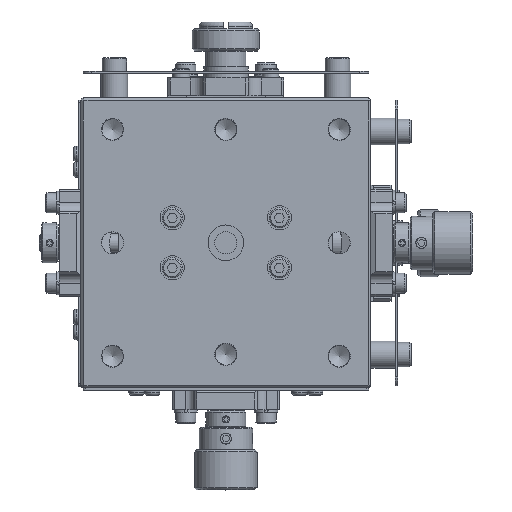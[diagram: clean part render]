
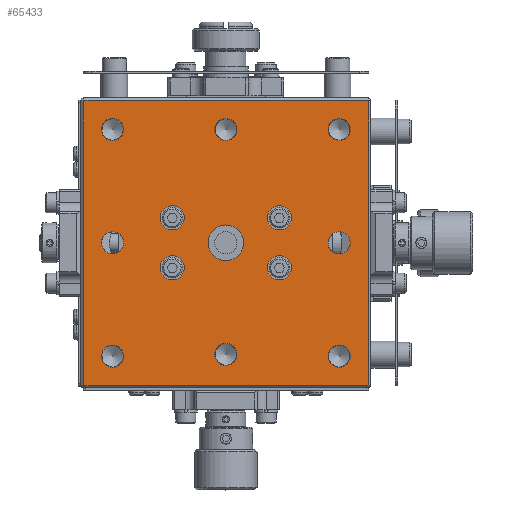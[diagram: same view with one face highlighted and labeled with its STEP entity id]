
A CAD part, top view. The second image highlights one B-rep face of the part: STEP entity #65433.
In plain terms, the highlighted planar face has unit normal (0, 0, 1).
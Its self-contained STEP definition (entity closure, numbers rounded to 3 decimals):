
#64885=CARTESIAN_POINT('',(-32.0,31.793,-50.0));
#64886=VERTEX_POINT('',#64885);
#64887=CARTESIAN_POINT('',(-31.793,32.0,-50.0));
#64888=VERTEX_POINT('',#64887);
#64889=CARTESIAN_POINT('',(-32.0,31.793,-50.0));
#64890=DIRECTION('',(0.707,0.707,0.0));
#64891=VECTOR('',#64890,0.293);
#64892=LINE('',#64889,#64891);
#64893=EDGE_CURVE('',#64886,#64888,#64892,.T.);
#64925=CARTESIAN_POINT('',(-32.0,-31.793,-50.0));
#64926=VERTEX_POINT('',#64925);
#64927=CARTESIAN_POINT('',(-32.0,-31.793,-50.0));
#64928=DIRECTION('',(0.0,1.0,0.0));
#64929=VECTOR('',#64928,63.586);
#64930=LINE('',#64927,#64929);
#64931=EDGE_CURVE('',#64926,#64886,#64930,.T.);
#64975=CARTESIAN_POINT('',(31.793,32.0,-50.0));
#64976=VERTEX_POINT('',#64975);
#64977=CARTESIAN_POINT('',(-31.793,32.0,-50.0));
#64978=DIRECTION('',(1.0,0.0,0.0));
#64979=VECTOR('',#64978,63.586);
#64980=LINE('',#64977,#64979);
#64981=EDGE_CURVE('',#64888,#64976,#64980,.T.);
#64997=CARTESIAN_POINT('',(31.793,-32.,-50.0));
#64998=VERTEX_POINT('',#64997);
#64999=CARTESIAN_POINT('',(-31.793,-32.0,-50.0));
#65000=VERTEX_POINT('',#64999);
#65001=CARTESIAN_POINT('',(31.793,-32.,-50.0));
#65002=DIRECTION('',(-1.0,0.0,0.0));
#65003=VECTOR('',#65002,63.586);
#65004=LINE('',#65001,#65003);
#65005=EDGE_CURVE('',#64998,#65000,#65004,.T.);
#65035=CARTESIAN_POINT('',(32.0,31.793,-50.0));
#65036=VERTEX_POINT('',#65035);
#65037=CARTESIAN_POINT('',(32.,-31.793,-50.0));
#65038=VERTEX_POINT('',#65037);
#65039=CARTESIAN_POINT('',(32.0,31.793,-50.0));
#65040=DIRECTION('',(0.0,-1.0,0.0));
#65041=VECTOR('',#65040,63.586);
#65042=LINE('',#65039,#65041);
#65043=EDGE_CURVE('',#65036,#65038,#65042,.T.);
#65068=CARTESIAN_POINT('',(32.,-31.793,-50.0));
#65069=DIRECTION('',(-0.707,-0.707,0.0));
#65070=VECTOR('',#65069,0.293);
#65071=LINE('',#65068,#65070);
#65072=EDGE_CURVE('',#65038,#64998,#65071,.T.);
#65090=CARTESIAN_POINT('',(31.793,32.0,-50.0));
#65091=DIRECTION('',(0.707,-0.707,0.0));
#65092=VECTOR('',#65091,0.293);
#65093=LINE('',#65090,#65092);
#65094=EDGE_CURVE('',#64976,#65036,#65093,.T.);
#65107=CARTESIAN_POINT('',(-31.793,-32.0,-50.0));
#65108=DIRECTION('',(-0.707,0.707,0.0));
#65109=VECTOR('',#65108,0.293);
#65110=LINE('',#65107,#65109);
#65111=EDGE_CURVE('',#65000,#64926,#65110,.T.);
#65275=CARTESIAN_POINT('',(32.5,-32.5,-50.0));
#65276=DIRECTION('',(0.0,0.0,-1.0));
#65277=DIRECTION('',(-1.0,0.0,0.0));
#65278=AXIS2_PLACEMENT_3D('',#65275,#65276,#65277);
#65279=PLANE('',#65278);
#65280=ORIENTED_EDGE('',*,*,#65043,.F.);
#65281=ORIENTED_EDGE('',*,*,#65094,.F.);
#65282=ORIENTED_EDGE('',*,*,#64981,.F.);
#65283=ORIENTED_EDGE('',*,*,#64893,.F.);
#65284=ORIENTED_EDGE('',*,*,#64931,.F.);
#65285=ORIENTED_EDGE('',*,*,#65111,.F.);
#65286=ORIENTED_EDGE('',*,*,#65005,.F.);
#65287=ORIENTED_EDGE('',*,*,#65072,.F.);
#65288=EDGE_LOOP('',(#65280,#65281,#65282,#65283,#65284,#65285,#65286,#65287));
#65289=FACE_OUTER_BOUND('',#65288,.T.);
#65290=CARTESIAN_POINT('',(-2.9,-12.,-50.0));
#65291=VERTEX_POINT('',#65290);
#65292=CARTESIAN_POINT('',(-5.6,-12.,-50.0));
#65293=DIRECTION('',(0.0,0.0,-1.0));
#65294=DIRECTION('',(1.0,0.0,0.0));
#65295=AXIS2_PLACEMENT_3D('',#65292,#65293,#65294);
#65296=CIRCLE('',#65295,2.7);
#65297=EDGE_CURVE('',#65291,#65291,#65296,.T.);
#65298=ORIENTED_EDGE('',*,*,#65297,.T.);
#65299=EDGE_LOOP('',(#65298));
#65300=FACE_BOUND('',#65299,.T.);
#65301=CARTESIAN_POINT('',(8.3,-12.,-50.0));
#65302=VERTEX_POINT('',#65301);
#65303=CARTESIAN_POINT('',(5.6,-12.,-50.0));
#65304=DIRECTION('',(0.0,0.0,-1.0));
#65305=DIRECTION('',(1.0,0.0,0.0));
#65306=AXIS2_PLACEMENT_3D('',#65303,#65304,#65305);
#65307=CIRCLE('',#65306,2.7);
#65308=EDGE_CURVE('',#65302,#65302,#65307,.T.);
#65309=ORIENTED_EDGE('',*,*,#65308,.T.);
#65310=EDGE_LOOP('',(#65309));
#65311=FACE_BOUND('',#65310,.T.);
#65312=CARTESIAN_POINT('',(-2.9,12.,-50.0));
#65313=VERTEX_POINT('',#65312);
#65314=CARTESIAN_POINT('',(-5.6,12.,-50.0));
#65315=DIRECTION('',(0.0,0.0,-1.0));
#65316=DIRECTION('',(1.0,0.0,0.0));
#65317=AXIS2_PLACEMENT_3D('',#65314,#65315,#65316);
#65318=CIRCLE('',#65317,2.7);
#65319=EDGE_CURVE('',#65313,#65313,#65318,.T.);
#65320=ORIENTED_EDGE('',*,*,#65319,.T.);
#65321=EDGE_LOOP('',(#65320));
#65322=FACE_BOUND('',#65321,.T.);
#65323=CARTESIAN_POINT('',(8.3,12.,-50.0));
#65324=VERTEX_POINT('',#65323);
#65325=CARTESIAN_POINT('',(5.6,12.,-50.0));
#65326=DIRECTION('',(0.0,0.0,-1.0));
#65327=DIRECTION('',(1.0,0.0,0.0));
#65328=AXIS2_PLACEMENT_3D('',#65325,#65326,#65327);
#65329=CIRCLE('',#65328,2.7);
#65330=EDGE_CURVE('',#65324,#65324,#65329,.T.);
#65331=ORIENTED_EDGE('',*,*,#65330,.T.);
#65332=EDGE_LOOP('',(#65331));
#65333=FACE_BOUND('',#65332,.T.);
#65334=CARTESIAN_POINT('',(-22.911,-25.4,-50.0));
#65335=VERTEX_POINT('',#65334);
#65336=CARTESIAN_POINT('',(-25.4,-25.4,-50.0));
#65337=DIRECTION('',(0.0,0.0,-1.0));
#65338=DIRECTION('',(1.0,0.0,0.0));
#65339=AXIS2_PLACEMENT_3D('',#65336,#65337,#65338);
#65340=CIRCLE('',#65339,2.489);
#65341=EDGE_CURVE('',#65335,#65335,#65340,.T.);
#65342=ORIENTED_EDGE('',*,*,#65341,.T.);
#65343=EDGE_LOOP('',(#65342));
#65344=FACE_BOUND('',#65343,.T.);
#65345=CARTESIAN_POINT('',(27.889,-25.4,-50.0));
#65346=VERTEX_POINT('',#65345);
#65347=CARTESIAN_POINT('',(25.4,-25.4,-50.0));
#65348=DIRECTION('',(0.0,0.0,-1.0));
#65349=DIRECTION('',(1.0,0.0,0.0));
#65350=AXIS2_PLACEMENT_3D('',#65347,#65348,#65349);
#65351=CIRCLE('',#65350,2.489);
#65352=EDGE_CURVE('',#65346,#65346,#65351,.T.);
#65353=ORIENTED_EDGE('',*,*,#65352,.T.);
#65354=EDGE_LOOP('',(#65353));
#65355=FACE_BOUND('',#65354,.T.);
#65356=CARTESIAN_POINT('',(-22.911,25.4,-50.0));
#65357=VERTEX_POINT('',#65356);
#65358=CARTESIAN_POINT('',(-25.4,25.4,-50.0));
#65359=DIRECTION('',(0.0,0.0,-1.0));
#65360=DIRECTION('',(1.0,0.0,0.0));
#65361=AXIS2_PLACEMENT_3D('',#65358,#65359,#65360);
#65362=CIRCLE('',#65361,2.489);
#65363=EDGE_CURVE('',#65357,#65357,#65362,.T.);
#65364=ORIENTED_EDGE('',*,*,#65363,.T.);
#65365=EDGE_LOOP('',(#65364));
#65366=FACE_BOUND('',#65365,.T.);
#65367=CARTESIAN_POINT('',(27.889,25.4,-50.0));
#65368=VERTEX_POINT('',#65367);
#65369=CARTESIAN_POINT('',(25.4,25.4,-50.0));
#65370=DIRECTION('',(0.0,0.0,-1.0));
#65371=DIRECTION('',(1.0,0.0,0.0));
#65372=AXIS2_PLACEMENT_3D('',#65369,#65370,#65371);
#65373=CIRCLE('',#65372,2.489);
#65374=EDGE_CURVE('',#65368,#65368,#65373,.T.);
#65375=ORIENTED_EDGE('',*,*,#65374,.T.);
#65376=EDGE_LOOP('',(#65375));
#65377=FACE_BOUND('',#65376,.T.);
#65378=CARTESIAN_POINT('',(-22.911,0.,-50.0));
#65379=VERTEX_POINT('',#65378);
#65380=CARTESIAN_POINT('',(-25.4,0.,-50.0));
#65381=DIRECTION('',(0.0,0.0,-1.0));
#65382=DIRECTION('',(1.0,0.0,0.0));
#65383=AXIS2_PLACEMENT_3D('',#65380,#65381,#65382);
#65384=CIRCLE('',#65383,2.489);
#65385=EDGE_CURVE('',#65379,#65379,#65384,.T.);
#65386=ORIENTED_EDGE('',*,*,#65385,.T.);
#65387=EDGE_LOOP('',(#65386));
#65388=FACE_BOUND('',#65387,.T.);
#65389=CARTESIAN_POINT('',(27.489,0.,-50.0));
#65390=VERTEX_POINT('',#65389);
#65391=CARTESIAN_POINT('',(25.,0.,-50.0));
#65392=DIRECTION('',(0.0,0.0,-1.0));
#65393=DIRECTION('',(1.0,0.0,0.0));
#65394=AXIS2_PLACEMENT_3D('',#65391,#65392,#65393);
#65395=CIRCLE('',#65394,2.489);
#65396=EDGE_CURVE('',#65390,#65390,#65395,.T.);
#65397=ORIENTED_EDGE('',*,*,#65396,.T.);
#65398=EDGE_LOOP('',(#65397));
#65399=FACE_BOUND('',#65398,.T.);
#65400=CARTESIAN_POINT('',(2.489,-25.4,-50.0));
#65401=VERTEX_POINT('',#65400);
#65402=CARTESIAN_POINT('',(0.0,-25.4,-50.0));
#65403=DIRECTION('',(0.0,0.0,-1.0));
#65404=DIRECTION('',(1.0,0.0,0.0));
#65405=AXIS2_PLACEMENT_3D('',#65402,#65403,#65404);
#65406=CIRCLE('',#65405,2.489);
#65407=EDGE_CURVE('',#65401,#65401,#65406,.T.);
#65408=ORIENTED_EDGE('',*,*,#65407,.T.);
#65409=EDGE_LOOP('',(#65408));
#65410=FACE_BOUND('',#65409,.T.);
#65411=CARTESIAN_POINT('',(2.489,25.4,-50.0));
#65412=VERTEX_POINT('',#65411);
#65413=CARTESIAN_POINT('',(0.0,25.4,-50.0));
#65414=DIRECTION('',(0.0,0.0,-1.0));
#65415=DIRECTION('',(1.0,0.0,0.0));
#65416=AXIS2_PLACEMENT_3D('',#65413,#65414,#65415);
#65417=CIRCLE('',#65416,2.489);
#65418=EDGE_CURVE('',#65412,#65412,#65417,.T.);
#65419=ORIENTED_EDGE('',*,*,#65418,.T.);
#65420=EDGE_LOOP('',(#65419));
#65421=FACE_BOUND('',#65420,.T.);
#65422=CARTESIAN_POINT('',(4.0,0.,-50.0));
#65423=VERTEX_POINT('',#65422);
#65424=CARTESIAN_POINT('',(0.0,0.,-50.0));
#65425=DIRECTION('',(0.0,0.0,-1.0));
#65426=DIRECTION('',(-1.0,0.0,0.0));
#65427=AXIS2_PLACEMENT_3D('',#65424,#65425,#65426);
#65428=CIRCLE('',#65427,4.0);
#65429=EDGE_CURVE('',#65423,#65423,#65428,.T.);
#65430=ORIENTED_EDGE('',*,*,#65429,.T.);
#65431=EDGE_LOOP('',(#65430));
#65432=FACE_BOUND('',#65431,.T.);
#65433=ADVANCED_FACE('',(#65289,#65300,#65311,#65322,#65333,#65344,#65355,#65366,#65377,#65388,#65399,#65410,#65421,#65432),#65279,.F.);
